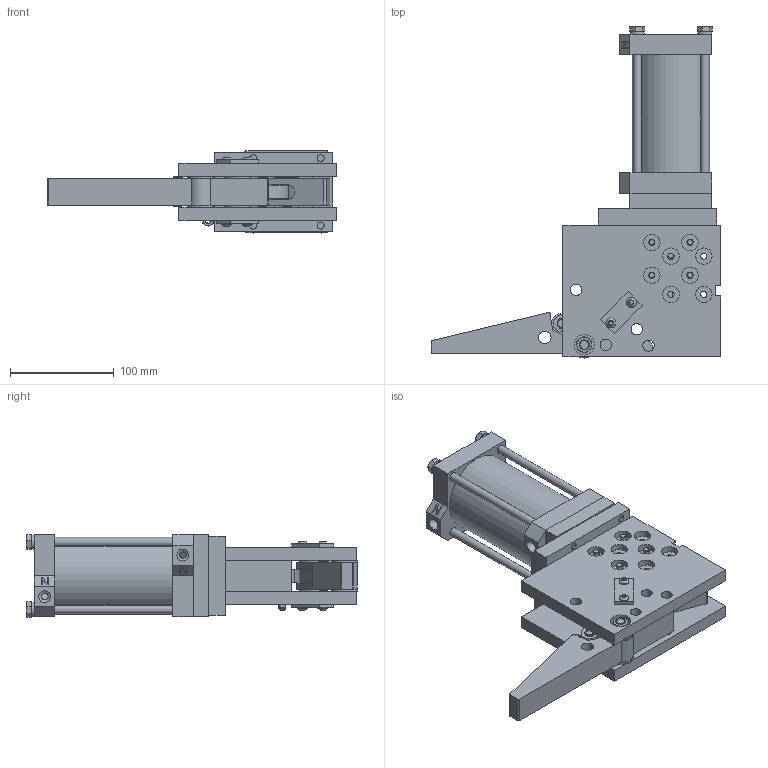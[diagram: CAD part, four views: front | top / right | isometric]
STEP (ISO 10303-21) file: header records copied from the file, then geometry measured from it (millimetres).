
FILE_DESCRIPTION(/* description */ ('SIDE PLATE-RH'),/* implementation_level */ '2;1');
FILE_NAME(/* name */ 'C:\Users\rcarver.WELKER\Desktop\CMX08H03A00.stp',/* time_stamp */ '2016-05-03T14:01:06-04:00',/* author */ ('rcarver'),/* organization */ (''),/* preprocessor_version */ 'ST-DEVELOPER v15.2',/* originating_system */ 'Autodesk Inventor 2014',/* authorisation */ '');
FILE_SCHEMA (('CONFIG_CONTROL_DESIGN'));
Products named in the file (42): CMXE01-RH; CMXE01-LH; CMXE03XL; CMXE05; CMXE06; CMXE07; CMXE19; 0.500X1.500XHH-.250; 0.375-16 HEXJAMNUT; CJ08E10-4; 1 OD X .500 ID X .03; M5X0.8-12 BHCS; C-31ST-PA; CMXE04; NUT; NYLON; 94645A205; 0.438-20X1.750 FLATPOINT; M8X1.25-20 SHCS; CMXE22; CMXE13; CMXE15-05; CMXE17; WCW-2169E01-50; NL8; MC0750X1000-125N; TSR-075BN70; CMXE02; DB4E16; UBS40E01N; UBS40E08; S01303E04; MOR-2.0X016.0bn70; TSP-332BN70; MA1500x2.75DIA; 0.625ID-SAE; 0.625-18 HEXNUT; UBS40E02-50; UBS40E03N; MOR-3.0X064.0bn70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
Bounding box: 279.65 x 320.15 x 79.37 mm (x, y, z)
Volume: 1422836.5 mm3; surface area: 461866.5 mm2
Topology: 72 solids, 72 shells, 1073 faces, 2306 edges, 1498 vertices
Faces by surface type: plane 517, cylinder 374, cone 160, torus 16, bspline 6
Full cylindrical faces by diameter (mm): 4.134 x4, 5 x4, 5.076 x1, 5.188 x4, 5.2 x4, 6 x14, 6.045 x16, 6.401 x2, 6.538 x1, 6.647 x16, 6.782 x4, 7.01 x6, 7.798 x1, 7.925 x9, 7.938 x4, 8 x19, 8.026 x20, 8.5 x4, 8.7 x4, 8.731 x8, 9 x4, 9.5 x4, 9.525 x2, 9.728 x3, 10.917 x8, 11.112 x1, 11.43 x4, 11.445 x2, 12 x1, 12.7 x11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
Entity records: 21375 total; most frequent: CARTESIAN_POINT 4468, DIRECTION 3562, ORIENTED_EDGE 2618, AXIS2_PLACEMENT_3D 1529, EDGE_LOOP 1320, EDGE_CURVE 1309, VERTEX_POINT 1013, ADVANCED_FACE 752
